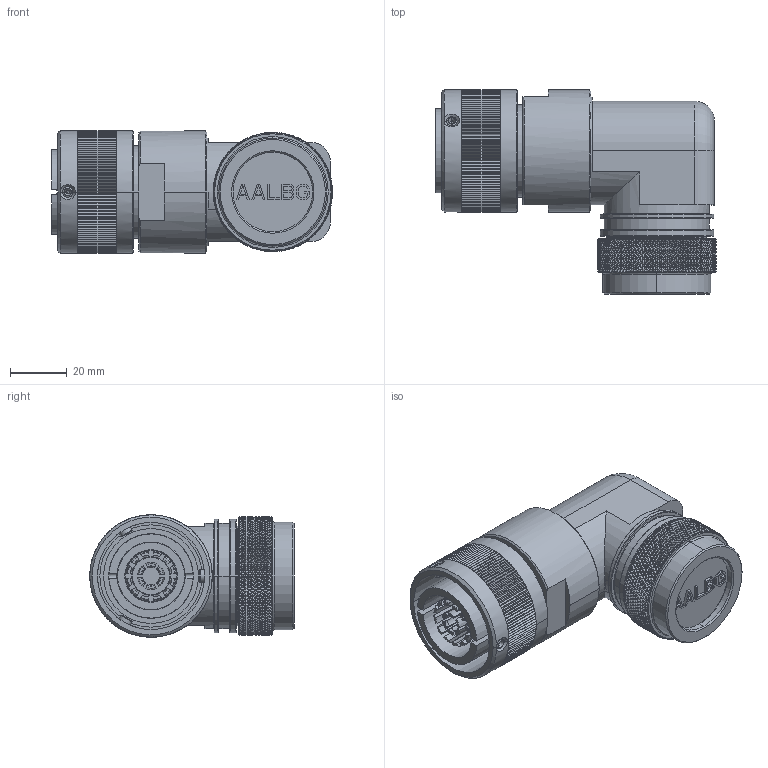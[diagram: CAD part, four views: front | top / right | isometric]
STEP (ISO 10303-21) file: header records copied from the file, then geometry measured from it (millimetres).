
FILE_DESCRIPTION((''),'2;1');
FILE_NAME('GCE3108E22M95S-B-T14_SW0001','2023-06-01T15:59:47',('paultorloting'),('NET AG system integration'),'CREO PARAMETRIC BY PTC INC, 2021404','CREO PARAMETRIC BY PTC INC, 2021404','');
FILE_SCHEMA(('AUTOMOTIVE_DESIGN { 1 0 10303 214 1 1 1 1 }'));
Length unit declared in the file: millimetre
Products named in the file (1): GCE3108E22M95S-B-T14_SW0001
Bounding box: 98.9 x 71.95 x 43.1 mm (x, y, z)
Volume: 144313.6 mm3; surface area: 35928.7 mm2
Topology: 1 solids, 5 shells, 7406 faces, 15614 edges, 8401 vertices
Faces by surface type: bspline 3900, plane 2307, cylinder 989, cone 137, torus 73
Entity records: 269787 total; most frequent: CARTESIAN_POINT 142754, ORIENTED_EDGE 31216, EDGE_CURVE 15608, DIRECTION 12403, B_SPLINE_CURVE_WITH_KNOTS 10991, VERTEX_POINT 8401, EDGE_LOOP 7601, FACE_OUTER_BOUND 7406
